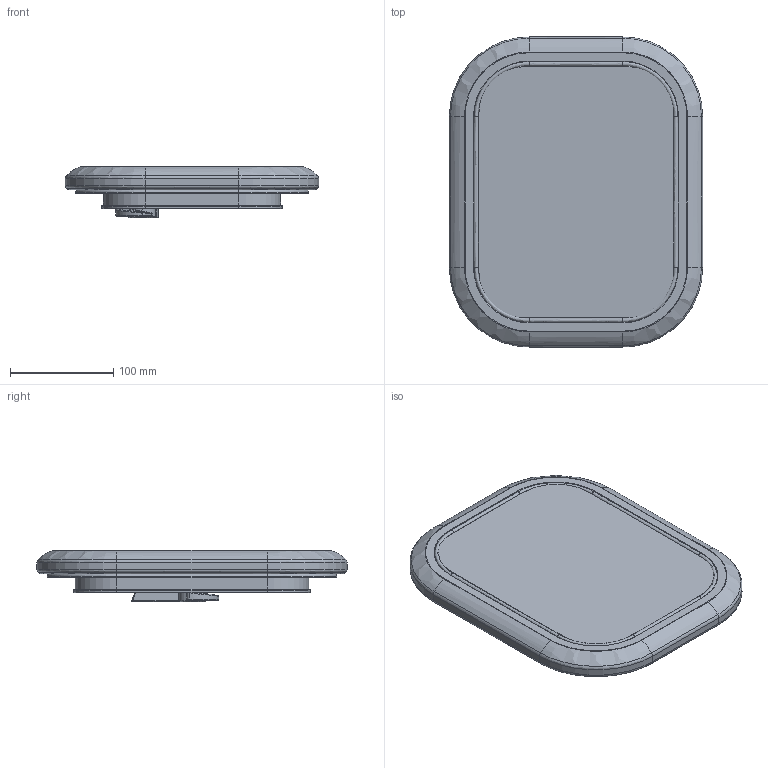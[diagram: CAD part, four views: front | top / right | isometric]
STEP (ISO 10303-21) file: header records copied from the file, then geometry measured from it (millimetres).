
FILE_DESCRIPTION((''),'2;1');
FILE_NAME('LEWMAR-HATCH-LOWPRO-03_ASM','2008-02-04T',('skennedy'),(''),'PRO/ENGINEER BY PARAMETRIC TECHNOLOGY CORPORATION, 2007030','PRO/ENGINEER BY PARAMETRIC TECHNOLOGY CORPORATION, 2007030','');
FILE_SCHEMA(('CONFIG_CONTROL_DESIGN'));
Length unit declared in the file: millimetre
Products named in the file (4): FRAME_03; 3590353X; SMALL_HANDLE_RHS_SW0001; LEWMAR-HATCH-LOWPRO-03_ASM
Assembly tree (3 placements, depth 2):
  LEWMAR-HATCH-LOWPRO-03_ASM
    FRAME_03
    3590353X
    SMALL_HANDLE_RHS_SW0001
Bounding box: 246 x 301 x 49.99 mm (x, y, z)
Volume: 1080181.5 mm3; surface area: 272211.6 mm2
Topology: 4 solids, 4 shells, 438 faces, 973 edges, 558 vertices
Faces by surface type: bspline 245, plane 99, cylinder 66, cone 14, torus 8, sphere 6
Entity records: 20364 total; most frequent: CARTESIAN_POINT 11766, ORIENTED_EDGE 1946, DIRECTION 1392, EDGE_CURVE 973, VERTEX_POINT 558, AXIS2_PLACEMENT_3D 494, EDGE_LOOP 455, FACE_OUTER_BOUND 438
